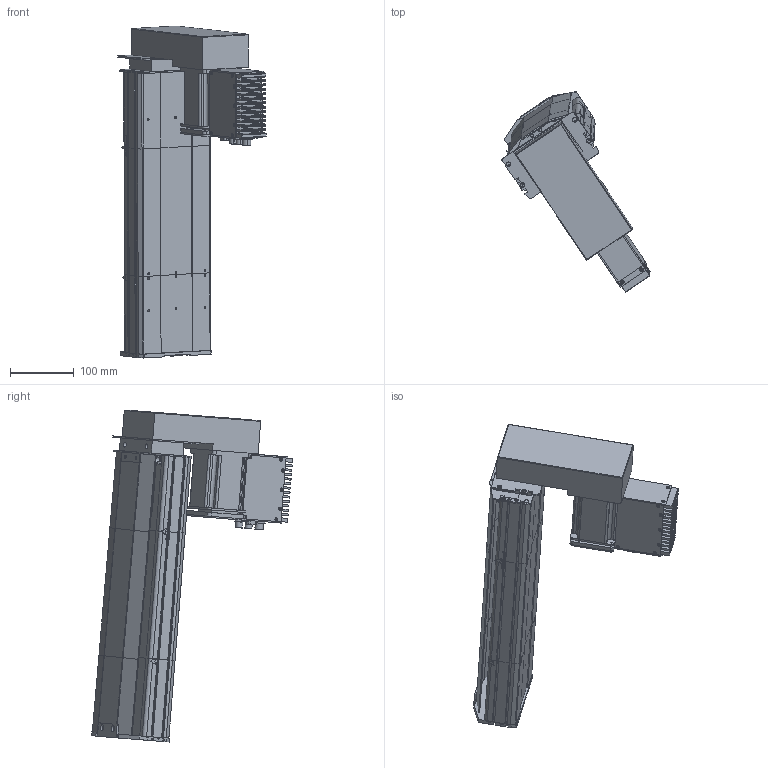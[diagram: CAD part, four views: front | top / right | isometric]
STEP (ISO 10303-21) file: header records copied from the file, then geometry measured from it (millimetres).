
FILE_DESCRIPTION (( 'STEP AP203' ), '1' );
FILE_NAME ('D14 TSH M4 BM L10 S200.STEP', '2012-10-11T12:09:21', ( '' ), ( '' ), 'SwSTEP 2.0', 'SolidWorks 2010', '' );
FILE_SCHEMA (( 'CONFIG_CONTROL_DESIGN' ));
Products named in the file (23): Sub D 9cts_2; plaque de  bout head D14 MD_Default_2; T犨e contre le moteur_2; T犨e fond_2; Connecteur rond D12 4cts_2; Moteur 70BLDC90A_2; Pièce200; plaque de  bout tail D14_Default_2; plaque de bout head D14 BM; D14 TSH M4 BM L10 S200; corp head D14_Default_2; couvercle D14 course L200; corpl tail D14_Default_2; couvercle D14_Default_2; Moteur_2; Connecteur rond D10 3cts_2; Tôle Arrière_2; Couvercle_2; Tôle latérale_2; Colonnette_2; Radiateur_2; Vis TF 3 torkx_2; couvercle D14 head_Default_2
Assembly tree (49 placements, depth 3):
  D14 TSH M4 BM L10 S200
    corp head D14_Default_2
    corpl tail D14_Default_2
    couvercle D14 head_Default_2
    couvercle D14 course L200
    Pièce200
    plaque de  bout head D14 MD_Default_2
    couvercle D14_Default_2
    plaque de bout head D14 BM
    Moteur_2
      Sub D 9cts_2
      Vis TF 3 torkx_2  x26
      Tôle Arrière_2
      Tôle latérale_2  x2
      Moteur 70BLDC90A_2
      Colonnette_2
      Couvercle_2
      Connecteur rond D10 3cts_2  x2
      Radiateur_2
      T犨e fond_2
      Connecteur rond D12 4cts_2
      T犨e contre le moteur_2
    plaque de  bout tail D14_Default_2
Bounding box: 231.51 x 314.88 x 519.23 mm (x, y, z)
Volume: 2696310.2 mm3; surface area: 735633.8 mm2
Topology: 70 solids, 70 shells, 2414 faces, 6302 edges, 4154 vertices
Faces by surface type: plane 1299, cylinder 851, cone 134, bspline 130
Entity records: 65392 total; most frequent: CARTESIAN_POINT 20964, ORIENTED_EDGE 8658, DIRECTION 8299, EDGE_CURVE 4329, VECTOR 2885, LINE 2885, VERTEX_POINT 2860, AXIS2_PLACEMENT_3D 2707
